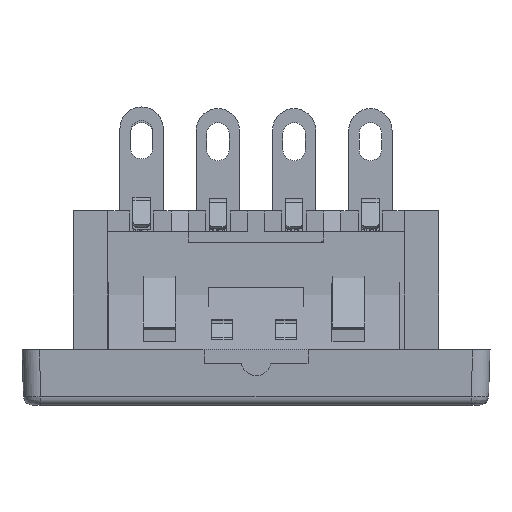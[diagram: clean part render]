
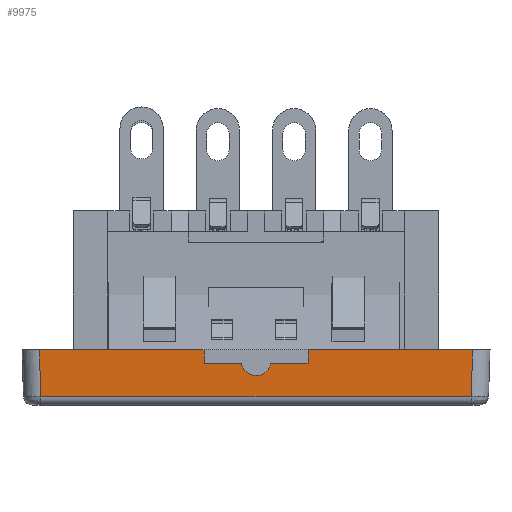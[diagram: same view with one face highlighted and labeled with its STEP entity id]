
A CAD part, front view. The second image highlights one B-rep face of the part: STEP entity #9975.
In plain terms, the highlighted planar face has unit normal (0, -1, -0.031).
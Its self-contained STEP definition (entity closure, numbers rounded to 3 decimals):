
#7933=ELLIPSE('',#34795,0.866,0.866);
#8612=FACE_OUTER_BOUND('',#18977,.T.);
#9975=ADVANCED_FACE('',(#8612),#11349,.T.);
#11349=PLANE('',#34796);
#13637=LINE('',#46722,#16764);
#13640=LINE('',#46730,#16767);
#13734=LINE('',#46950,#16861);
#13735=LINE('',#46952,#16862);
#13736=LINE('',#46954,#16863);
#13737=LINE('',#46956,#16864);
#13738=LINE('',#46958,#16865);
#13739=LINE('',#46960,#16866);
#13740=LINE('',#46964,#16867);
#13741=LINE('',#46966,#16868);
#13742=LINE('',#46968,#16869);
#16764=VECTOR('',#38286,1.);
#16767=VECTOR('',#38293,1.);
#16861=VECTOR('',#38451,1.);
#16862=VECTOR('',#38454,1.);
#16863=VECTOR('',#38455,1.);
#16864=VECTOR('',#38456,1.);
#16865=VECTOR('',#38457,1.);
#16866=VECTOR('',#38458,1.);
#16867=VECTOR('',#38461,1.);
#16868=VECTOR('',#38462,1.);
#16869=VECTOR('',#38463,1.);
#18977=EDGE_LOOP('',(#22854,#22855,#22856,#22857,#22858,#22859,#22860,#22861,
#22862,#22863,#22864,#22865));
#22854=ORIENTED_EDGE('',*,*,#31959,.T.);
#22855=ORIENTED_EDGE('',*,*,#31960,.T.);
#22856=ORIENTED_EDGE('',*,*,#31961,.T.);
#22857=ORIENTED_EDGE('',*,*,#31962,.T.);
#22858=ORIENTED_EDGE('',*,*,#31963,.F.);
#22859=ORIENTED_EDGE('',*,*,#31964,.F.);
#22860=ORIENTED_EDGE('',*,*,#31965,.F.);
#22861=ORIENTED_EDGE('',*,*,#31966,.F.);
#22862=ORIENTED_EDGE('',*,*,#31967,.F.);
#22863=ORIENTED_EDGE('',*,*,#31968,.T.);
#22864=ORIENTED_EDGE('',*,*,#31858,.T.);
#22865=ORIENTED_EDGE('',*,*,#31854,.T.);
#28917=VERTEX_POINT('',#46721);
#28918=VERTEX_POINT('',#46723);
#28920=VERTEX_POINT('',#46729);
#28990=VERTEX_POINT('',#46949);
#28991=VERTEX_POINT('',#46953);
#28992=VERTEX_POINT('',#46955);
#28993=VERTEX_POINT('',#46957);
#28994=VERTEX_POINT('',#46959);
#28995=VERTEX_POINT('',#46961);
#28996=VERTEX_POINT('',#46963);
#28997=VERTEX_POINT('',#46965);
#28998=VERTEX_POINT('',#46967);
#31854=EDGE_CURVE('',#28918,#28917,#13637,.T.);
#31858=EDGE_CURVE('',#28920,#28918,#13640,.T.);
#31959=EDGE_CURVE('',#28917,#28990,#13734,.T.);
#31960=EDGE_CURVE('',#28990,#28991,#13735,.T.);
#31961=EDGE_CURVE('',#28991,#28992,#13736,.T.);
#31962=EDGE_CURVE('',#28992,#28993,#13737,.T.);
#31963=EDGE_CURVE('',#28994,#28993,#13738,.T.);
#31964=EDGE_CURVE('',#28995,#28994,#13739,.T.);
#31965=EDGE_CURVE('',#28996,#28995,#7933,.T.);
#31966=EDGE_CURVE('',#28997,#28996,#13740,.T.);
#31967=EDGE_CURVE('',#28998,#28997,#13741,.T.);
#31968=EDGE_CURVE('',#28998,#28920,#13742,.T.);
#34795=AXIS2_PLACEMENT_3D('',#46962,#38459,#38460);
#34796=AXIS2_PLACEMENT_3D('',#46969,#38464,#38465);
#38286=DIRECTION('',(0.031,0.031,-0.999));
#38293=DIRECTION('',(0.,0.031,-1.));
#38451=DIRECTION('',(1.,0.,0.));
#38454=DIRECTION('',(0.031,-0.031,0.999));
#38455=DIRECTION('',(0.,-0.031,1.));
#38456=DIRECTION('',(-1.,0.,0.));
#38457=DIRECTION('',(0.,-0.031,1.));
#38458=DIRECTION('',(1.,0.,0.));
#38459=DIRECTION('',(0.,-1.,-0.031));
#38460=DIRECTION('',(0.,-0.031,1.));
#38461=DIRECTION('',(1.,0.,0.));
#38462=DIRECTION('',(0.,0.031,-1.));
#38463=DIRECTION('',(-1.,0.,0.));
#38464=DIRECTION('',(0.,-1.,-0.031));
#38465=DIRECTION('',(0.,0.031,-1.));
#46721=CARTESIAN_POINT('',(-39.8,-4.892,-5.066));
#46722=CARTESIAN_POINT('',(-39.881,-4.974,-2.483));
#46723=CARTESIAN_POINT('',(-39.884,-4.977,-2.366));
#46729=CARTESIAN_POINT('',(-39.884,-4.978,-2.35));
#46730=CARTESIAN_POINT('',(-39.884,-4.978,-2.35));
#46949=CARTESIAN_POINT('',(-14.969,-4.892,-5.066));
#46950=CARTESIAN_POINT('',(-35.634,-4.892,-5.066));
#46952=CARTESIAN_POINT('',(-14.904,-4.957,-3.001));
#46953=CARTESIAN_POINT('',(-14.884,-4.977,-2.366));
#46954=CARTESIAN_POINT('',(-14.884,-4.978,-2.35));
#46955=CARTESIAN_POINT('',(-14.884,-4.978,-2.35));
#46956=CARTESIAN_POINT('',(-35.634,-4.978,-2.35));
#46957=CARTESIAN_POINT('',(-24.384,-4.978,-2.35));
#46958=CARTESIAN_POINT('',(-24.384,-4.952,-3.187));
#46959=CARTESIAN_POINT('',(-24.384,-4.953,-3.15));
#46960=CARTESIAN_POINT('',(-26.534,-4.953,-3.15));
#46961=CARTESIAN_POINT('',(-26.534,-4.953,-3.15));
#46962=CARTESIAN_POINT('',(-27.384,-4.958,-2.984));
#46963=CARTESIAN_POINT('',(-28.234,-4.953,-3.15));
#46964=CARTESIAN_POINT('',(-30.384,-4.953,-3.15));
#46965=CARTESIAN_POINT('',(-30.384,-4.953,-3.15));
#46966=CARTESIAN_POINT('',(-30.384,-4.977,-2.388));
#46967=CARTESIAN_POINT('',(-30.384,-4.978,-2.35));
#46968=CARTESIAN_POINT('',(-35.634,-4.978,-2.35));
#46969=CARTESIAN_POINT('',(-35.634,-4.978,-2.35));
